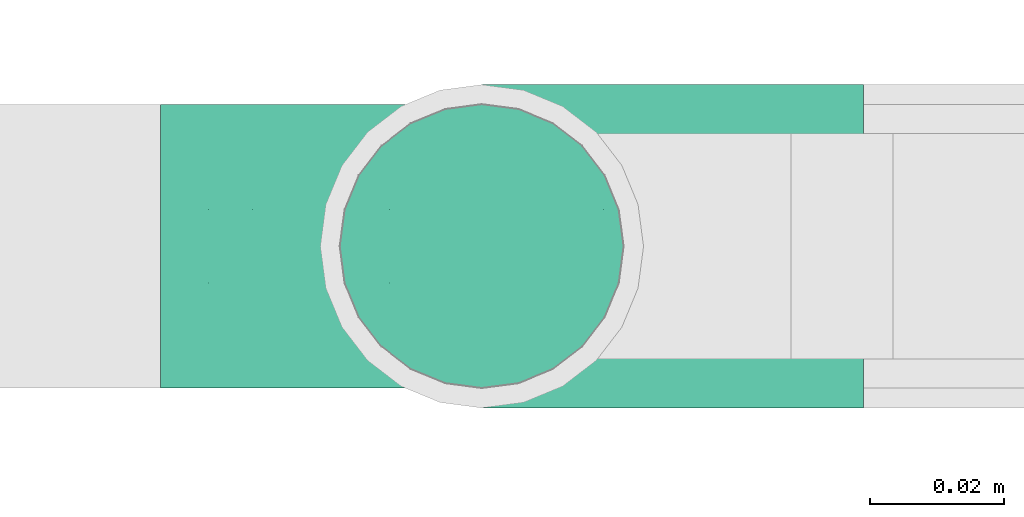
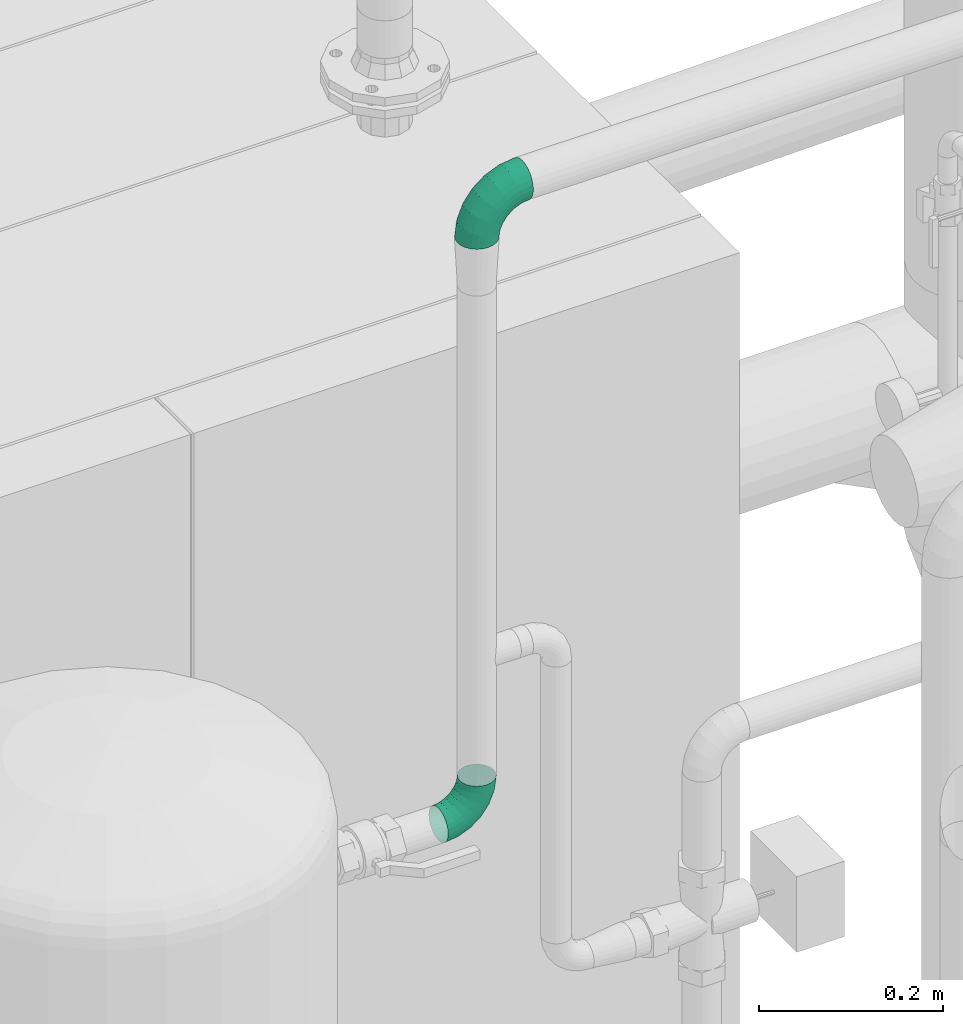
# One storey, part 281 of 374: 2 flow segments.
"""IFC2X3 building model written with IfcOpenShell, lengths in metres."""

from ifc_helpers import new_model, si_unit, direction, origin, place, context, subcontext, project, spatial, open_shell, surface_model, source, transform, mapped, element, save


model = new_model("IFC2X3")

# Units and contexts
model_context = context("Model", 3, precision=1e-05, world=origin(), true_north=direction((-0.4480736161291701, 0.8939966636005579)))
body_context = subcontext(model_context, "Body", "Model", "MODEL_VIEW")
ifc_project = project(units=[si_unit("LENGTHUNIT", "METRE"), si_unit("AREAUNIT", "SQUARE_METRE"), si_unit("VOLUMEUNIT", "CUBIC_METRE"), si_unit("PLANEANGLEUNIT", "RADIAN"), si_unit("THERMODYNAMICTEMPERATUREUNIT", "KELVIN"), si_unit("MASSUNIT", "GRAM", prefix="KILO"), si_unit("TIMEUNIT", "SECOND")], contexts=[model_context])

# Site, building, storey
site_placement = place(None, origin())
site = spatial("IfcSite", under=ifc_project, at=site_placement, Name="Site 1", CompositionType="ELEMENT")
building_placement = place(site_placement, origin())
building = spatial("IfcBuilding", under=site, at=building_placement, Name="Undefined", CompositionType="ELEMENT")
storey_placement = place(building_placement, origin())
storey = spatial("IfcBuildingStorey", under=building, at=storey_placement, Name="Rez de chauss\x8ee", CompositionType="ELEMENT", Elevation=0.0)

# Flow segments
shared_shape_1 = source(origin(), body_context, "Body", "SurfaceModel", [
    surface_model("IfcFaceBasedSurfaceModel", [(0.01806482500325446, 7.105427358e-15, 0.0), (0.017970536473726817, 0.005533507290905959, 0.0), (9.428852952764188e-05, 0.005533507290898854, 0.0), (0.0, 0.0, 0.0), (-0.017172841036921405, 0.00613233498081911, -0.004587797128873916), (-0.01744928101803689, 0.0006051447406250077, -0.004636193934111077), (-0.03265412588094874, 0.007289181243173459, -0.013450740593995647), (-0.0330938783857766, 0.0017741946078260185, -0.013592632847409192), (-0.045294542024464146, 0.008925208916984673, -0.02598483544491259), (-0.045867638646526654, 0.0034274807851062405, -0.02625895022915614), (-0.054232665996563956, 0.010928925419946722, -0.041335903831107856), (-0.05490005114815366, 0.005452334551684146, -0.04177195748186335), (-0.05885937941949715, 0.013163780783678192, -0.05845779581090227), (-0.059575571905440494, 0.007710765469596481, -0.05907446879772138), (0.01769409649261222, 0.010875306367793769, -0.0014203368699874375), (0.00037072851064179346, 0.010875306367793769, -0.0014203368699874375), (-0.016362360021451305, 0.011455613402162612, -0.005866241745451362), (-0.03136483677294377, 0.012576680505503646, -0.014455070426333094), (-0.04361430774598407, 0.014162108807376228, -0.026601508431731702), (-0.05227599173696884, 0.016103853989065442, -0.0414777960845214), (-0.05675960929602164, 0.018269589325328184, -0.05807013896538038), (0.017254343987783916, 0.015661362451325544, -0.0041642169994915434), (0.0008104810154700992, 0.015661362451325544, -0.004164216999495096), (-0.01507307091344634, 0.016212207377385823, -0.008384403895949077), (-0.029313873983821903, 0.01727635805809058, -0.016537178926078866), (-0.04094144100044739, 0.01878129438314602, -0.02806694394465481), (-0.049163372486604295, 0.02062445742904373, -0.042187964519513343), (-0.05341935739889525, 0.02268023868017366, -0.05793791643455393), (0.016681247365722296, 0.01956551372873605, -0.008044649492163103), (0.001383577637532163, 0.01956551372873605, -0.008044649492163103), (-0.01339283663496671, 0.020077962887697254, -0.011970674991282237), (-0.026641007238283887, 0.021067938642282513, -0.01955517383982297), (-0.03745809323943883, 0.02246797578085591, -0.03028127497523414), (-0.04510692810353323, 0.0241826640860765, -0.04341801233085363), (-0.04906625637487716, 0.026095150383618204, -0.05807013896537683), (0.016013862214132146, 0.022321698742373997, -0.012797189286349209), (0.0020509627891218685, 0.022321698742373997, -0.012797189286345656), (-0.011436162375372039, 0.02278943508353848, -0.016380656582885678), (-0.023528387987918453, 0.02369303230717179, -0.023303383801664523), (-0.03340164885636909, 0.024970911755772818, -0.03309359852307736), (-0.040383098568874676, 0.026535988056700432, -0.04508411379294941), (-0.04399696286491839, 0.028281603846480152, -0.05845779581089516), (0.015297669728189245, 0.023742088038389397, -0.018097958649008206), (0.00276715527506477, 0.023742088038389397, -0.018097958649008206), (-0.009336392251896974, 0.024161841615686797, -0.021313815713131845), (-0.02018813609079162, 0.02497274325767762, -0.0275263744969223), (-0.029048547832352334, 0.02611953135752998, -0.03631225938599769), (-0.03531380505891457, 0.027524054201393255, -0.04707272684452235), (-0.0385569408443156, 0.02909059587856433, -0.05907446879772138), (0.014581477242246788, 0.023729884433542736, -0.02358571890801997), (0.0034833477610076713, 0.023729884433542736, -0.02358571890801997), (-0.007236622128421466, 0.024101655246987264, -0.026433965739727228), (-0.016847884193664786, 0.02481986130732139, -0.03193635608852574), (-0.02469544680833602, 0.02583555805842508, -0.03971791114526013), (-0.0302445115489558, 0.027079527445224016, -0.04924833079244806), (-0.03311691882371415, 0.02846699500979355, -0.059878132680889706), (0.013914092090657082, 0.02228591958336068, -0.02888648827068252), (0.004150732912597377, 0.022285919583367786, -0.028886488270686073), (-0.005279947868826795, 0.022612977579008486, -0.031392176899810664), (-0.013735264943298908, 0.023244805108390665, -0.03623279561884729), (-0.020639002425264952, 0.02413834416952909, -0.04307846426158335), (-0.025520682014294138, 0.025232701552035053, -0.051462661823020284), (-0.028047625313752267, 0.026453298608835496, -0.060814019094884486), (0.013340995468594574, 0.01950859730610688, -0.03363902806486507), (0.0047238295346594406, 0.01950859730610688, -0.033639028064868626), (-0.0035997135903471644, 0.019797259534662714, -0.035850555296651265), (-0.011062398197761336, 0.0203549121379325, -0.04012289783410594), (-0.017155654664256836, 0.021143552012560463, -0.04616490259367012), (-0.02146423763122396, 0.022109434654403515, -0.05356481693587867), (-0.02369452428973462, 0.023186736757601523, -0.06181834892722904), (0.012901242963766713, 0.015587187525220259, -0.037519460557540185), (0.005163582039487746, 0.015587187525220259, -0.03751946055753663), (-0.0023104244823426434, 0.015846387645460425, -0.03950526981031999), (-0.009011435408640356, 0.016347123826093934, -0.043341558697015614), (-0.01448278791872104, 0.017055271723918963, -0.048766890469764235), (-0.018351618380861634, 0.017922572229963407, -0.05541153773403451), (-0.02035427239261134, 0.018889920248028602, -0.06282267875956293), (0.012624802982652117, 0.010788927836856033, -0.040263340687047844), (0.005440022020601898, 0.010788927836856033, -0.0402633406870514), (-0.0014999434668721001, 0.011029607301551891, -0.04210725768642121), (-0.007722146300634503, 0.01149456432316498, -0.045669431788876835), (-0.012802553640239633, 0.012152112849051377, -0.05070710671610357), (-0.0163949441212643, 0.012957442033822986, -0.056876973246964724), (-0.018254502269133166, 0.013855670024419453, -0.06375856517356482), (0.012530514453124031, 0.005440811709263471, -0.041683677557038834), (0.005534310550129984, 0.0054408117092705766, -0.041683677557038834), (-0.0012235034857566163, 0.005675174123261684, -0.04347919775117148), (-0.007282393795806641, 0.006127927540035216, -0.046947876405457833), (-0.012229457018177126, 0.0067682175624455, -0.05185332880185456), (-0.015727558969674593, 0.007552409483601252, -0.05786125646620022), (-0.01753830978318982, 0.008427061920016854, -0.0645622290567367), (0.012624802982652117, -9.269558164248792e-05, -0.04168367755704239), (0.005440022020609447, -9.269558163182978e-05, -0.04168367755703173), (-0.0014999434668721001, 0.00014798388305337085, -0.0435275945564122), (-0.007722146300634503, 0.0006129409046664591, -0.047089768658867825), (-0.012802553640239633, 0.001270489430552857, -0.05212744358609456), (-0.0163949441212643, 0.002075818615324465, -0.058297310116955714), (-0.018254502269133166, 0.0029740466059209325, -0.06517890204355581), (0.012901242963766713, -0.005434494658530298, -0.0402633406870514), (0.005163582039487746, -0.005434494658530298, -0.040263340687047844), (-0.0023104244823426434, -0.005175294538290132, -0.0422491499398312), (-0.009011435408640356, -0.004674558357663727, -0.046085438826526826), (-0.01448278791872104, -0.0039664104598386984, -0.051510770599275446), (-0.018351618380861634, -0.0030991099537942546, -0.05815541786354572), (-0.02035427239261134, -0.0021317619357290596, -0.06556655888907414), (0.013340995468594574, -0.010220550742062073, -0.03751946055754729), (0.0047238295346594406, -0.010220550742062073, -0.03751946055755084), (-0.0035997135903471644, -0.009931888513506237, -0.03973098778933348), (-0.011062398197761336, -0.009374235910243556, -0.04400333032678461), (-0.017155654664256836, -0.00858559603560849, -0.05004533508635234), (-0.02146423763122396, -0.007619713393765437, -0.057445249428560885), (-0.02369452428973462, -0.006542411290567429, -0.06569878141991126), (0.013914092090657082, -0.01412470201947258, -0.03363902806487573), (0.004150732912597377, -0.014124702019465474, -0.033639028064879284), (-0.005279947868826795, -0.013797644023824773, -0.036144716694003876), (-0.013735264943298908, -0.013165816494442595, -0.0409853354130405), (-0.020639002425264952, -0.012272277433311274, -0.04783100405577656), (-0.025520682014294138, -0.011177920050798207, -0.05621520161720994), (-0.028047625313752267, -0.009957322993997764, -0.0655665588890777), (0.014581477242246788, -0.01688088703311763, -0.028886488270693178), (0.0034833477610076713, -0.01688088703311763, -0.028886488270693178), (-0.007236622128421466, -0.016509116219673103, -0.031734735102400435), (-0.016847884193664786, -0.015790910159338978, -0.03723712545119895), (-0.02469544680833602, -0.014775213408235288, -0.04501868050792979), (-0.0302445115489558, -0.01353124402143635, -0.054549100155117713), (-0.03311691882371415, -0.012143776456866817, -0.06517890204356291), (0.015297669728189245, -0.01830127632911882, -0.02358571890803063), (0.00276715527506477, -0.01830127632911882, -0.02358571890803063), (-0.009336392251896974, -0.01788152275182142, -0.026801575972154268), (-0.02018813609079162, -0.017070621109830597, -0.033014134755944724), (-0.029048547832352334, -0.01592383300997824, -0.04180001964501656), (-0.03531380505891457, -0.014519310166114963, -0.05256048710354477), (-0.0385569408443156, -0.012952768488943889, -0.06456222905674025), (0.016013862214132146, -0.01828907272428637, -0.018097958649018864), (0.0020509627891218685, -0.01828907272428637, -0.018097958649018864), (-0.011436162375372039, -0.01782133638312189, -0.021681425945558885), (-0.023528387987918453, -0.016917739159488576, -0.02860415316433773), (-0.03340164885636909, -0.01563985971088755, -0.038394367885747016), (-0.040383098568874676, -0.014074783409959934, -0.05038488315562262), (-0.04399696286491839, -0.012329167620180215, -0.06375856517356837), (0.016681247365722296, -0.01684510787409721, -0.012797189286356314), (0.001383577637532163, -0.01684510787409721, -0.012797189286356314), (-0.01339283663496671, -0.016332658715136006, -0.01672321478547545), (-0.026641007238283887, -0.015342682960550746, -0.02430771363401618), (-0.03745809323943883, -0.01394264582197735, -0.03503381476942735), (-0.04510692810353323, -0.01222795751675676, -0.04817055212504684), (-0.04906625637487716, -0.010315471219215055, -0.06282267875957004), (0.017254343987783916, -0.014067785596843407, -0.008044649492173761), (0.0008104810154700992, -0.014067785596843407, -0.008044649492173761), (-0.01507307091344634, -0.013516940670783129, -0.012264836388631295), (-0.029313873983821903, -0.012452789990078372, -0.020417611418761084), (-0.04094144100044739, -0.010947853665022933, -0.03194737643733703), (-0.049163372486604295, -0.009104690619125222, -0.04606839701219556), (-0.05341935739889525, -0.007048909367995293, -0.06181834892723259), (0.01769409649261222, -0.010146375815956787, -0.004164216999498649), (0.00037072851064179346, -0.010146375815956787, -0.004164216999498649), (-0.016362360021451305, -0.009566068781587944, -0.008610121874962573), (-0.03136483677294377, -0.008445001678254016, -0.017198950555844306), (-0.04361430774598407, -0.006859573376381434, -0.029345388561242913), (-0.05227599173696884, -0.00491782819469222, -0.04422167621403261), (-0.05675960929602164, -0.002752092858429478, -0.060814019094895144), (0.017970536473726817, -0.0053481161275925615, -0.0014203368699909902), (9.428852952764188e-05, -0.005348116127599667, -0.001420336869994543), (-0.017172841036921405, -0.004749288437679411, -0.006008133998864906), (-0.03265412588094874, -0.0035924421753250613, -0.014871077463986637), (-0.045294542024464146, -0.001956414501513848, -0.02740517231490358), (-0.05423266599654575, 4.730200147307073e-05, -0.042756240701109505), (-0.05885937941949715, 0.002282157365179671, -0.05987813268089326)], [open_shell([[[0, 1, 2, 3]], [[3, 2, 4, 5]], [[5, 4, 6, 7]], [[7, 6, 8, 9]], [[9, 8, 10, 11]], [[11, 10, 12, 13]], [[1, 14, 15, 2]], [[2, 15, 16, 4]], [[4, 16, 17, 6]], [[6, 17, 18, 8]], [[8, 18, 19, 10]], [[10, 19, 20, 12]], [[14, 21, 22, 15]], [[15, 22, 23, 16]], [[16, 23, 24, 17]], [[17, 24, 25, 18]], [[18, 25, 26, 19]], [[19, 26, 27, 20]], [[21, 28, 29, 22]], [[22, 29, 30, 23]], [[23, 30, 31, 24]], [[24, 31, 32, 25]], [[25, 32, 33, 26]], [[26, 33, 34, 27]], [[28, 35, 36, 29]], [[29, 36, 37, 30]], [[30, 37, 38, 31]], [[31, 38, 39, 32]], [[32, 39, 40, 33]], [[33, 40, 41, 34]], [[35, 42, 43, 36]], [[36, 43, 44, 37]], [[37, 44, 45, 38]], [[38, 45, 46, 39]], [[39, 46, 47, 40]], [[40, 47, 48, 41]], [[42, 49, 50, 43]], [[43, 50, 51, 44]], [[44, 51, 52, 45]], [[45, 52, 53, 46]], [[46, 53, 54, 47]], [[47, 54, 55, 48]], [[49, 56, 57, 50]], [[50, 57, 58, 51]], [[51, 58, 59, 52]], [[52, 59, 60, 53]], [[53, 60, 61, 54]], [[54, 61, 62, 55]], [[56, 63, 64, 57]], [[57, 64, 65, 58]], [[58, 65, 66, 59]], [[59, 66, 67, 60]], [[60, 67, 68, 61]], [[61, 68, 69, 62]], [[63, 70, 71, 64]], [[64, 71, 72, 65]], [[65, 72, 73, 66]], [[66, 73, 74, 67]], [[67, 74, 75, 68]], [[68, 75, 76, 69]], [[70, 77, 78, 71]], [[71, 78, 79, 72]], [[72, 79, 80, 73]], [[73, 80, 81, 74]], [[74, 81, 82, 75]], [[75, 82, 83, 76]], [[77, 84, 85, 78]], [[78, 85, 86, 79]], [[79, 86, 87, 80]], [[80, 87, 88, 81]], [[81, 88, 89, 82]], [[82, 89, 90, 83]], [[84, 91, 92, 85]], [[85, 92, 93, 86]], [[86, 93, 94, 87]], [[87, 94, 95, 88]], [[88, 95, 96, 89]], [[89, 96, 97, 90]], [[91, 98, 99, 92]], [[92, 99, 100, 93]], [[93, 100, 101, 94]], [[94, 101, 102, 95]], [[95, 102, 103, 96]], [[96, 103, 104, 97]], [[98, 105, 106, 99]], [[99, 106, 107, 100]], [[100, 107, 108, 101]], [[101, 108, 109, 102]], [[102, 109, 110, 103]], [[103, 110, 111, 104]], [[105, 112, 113, 106]], [[106, 113, 114, 107]], [[107, 114, 115, 108]], [[108, 115, 116, 109]], [[109, 116, 117, 110]], [[110, 117, 118, 111]], [[112, 119, 120, 113]], [[113, 120, 121, 114]], [[114, 121, 122, 115]], [[115, 122, 123, 116]], [[116, 123, 124, 117]], [[117, 124, 125, 118]], [[119, 126, 127, 120]], [[120, 127, 128, 121]], [[121, 128, 129, 122]], [[122, 129, 130, 123]], [[123, 130, 131, 124]], [[124, 131, 132, 125]], [[126, 133, 134, 127]], [[127, 134, 135, 128]], [[128, 135, 136, 129]], [[129, 136, 137, 130]], [[130, 137, 138, 131]], [[131, 138, 139, 132]], [[133, 140, 141, 134]], [[134, 141, 142, 135]], [[135, 142, 143, 136]], [[136, 143, 144, 137]], [[137, 144, 145, 138]], [[138, 145, 146, 139]], [[140, 147, 148, 141]], [[141, 148, 149, 142]], [[142, 149, 150, 143]], [[143, 150, 151, 144]], [[144, 151, 152, 145]], [[145, 152, 153, 146]], [[147, 154, 155, 148]], [[148, 155, 156, 149]], [[149, 156, 157, 150]], [[150, 157, 158, 151]], [[151, 158, 159, 152]], [[152, 159, 160, 153]], [[154, 161, 162, 155]], [[155, 162, 163, 156]], [[156, 163, 164, 157]], [[157, 164, 165, 158]], [[158, 165, 166, 159]], [[159, 166, 167, 160]], [[161, 0, 3, 162]], [[162, 3, 5, 163]], [[163, 5, 7, 164]], [[164, 7, 9, 165]], [[165, 9, 11, 166]], [[166, 11, 13, 167]]])]),
])
flow_segment_1_placement = place(storey_placement, origin())
element("IfcFlowSegment", 1, at=flow_segment_1_placement, inside=storey, Name="Tube coudé", ObjectType="Tube coudé", context=body_context, shape_type="MappedRepresentation", body=[
    mapped(shared_shape_1, transform((54.11770678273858, 11.708084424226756, 1.4000897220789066), x_axis=(0.1305261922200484, 0.0, 0.9914448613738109), y_axis=(-0.1283210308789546, -0.9915887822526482, 0.01689378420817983), z_axis=(0.9831056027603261, -0.12942830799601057, -0.12942830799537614))),
])
shared_shape_2 = source(origin(), body_context, "Body", "SurfaceModel", [
    surface_model("IfcFaceBasedSurfaceModel", [(0.021184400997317, 0.0, 0.0), (0.021076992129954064, 0.006303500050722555, 0.0), (0.00010740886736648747, 0.0063035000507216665, 0.0), (0.0, 0.0, 0.0), (-0.020147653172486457, 0.007005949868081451, -0.005381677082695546), (-0.02046256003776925, 0.0007096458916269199, -0.005436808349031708), (-0.03830784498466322, 0.008362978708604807, -0.015778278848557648), (-0.03880878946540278, 0.00208057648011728, -0.015939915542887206), (-0.05313557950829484, 0.010282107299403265, -0.030481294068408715), (-0.05378842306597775, 0.004019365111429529, -0.030793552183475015), (-0.06362037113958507, 0.01263255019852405, -0.048488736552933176), (-0.0643806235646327, 0.0063938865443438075, -0.048985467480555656), (-0.06904769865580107, 0.015254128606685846, -0.0685734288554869), (-0.06986355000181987, 0.00904232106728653, -0.06927591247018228), (0.020762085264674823, 0.012388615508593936, -0.0016179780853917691), (0.00042231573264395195, 0.012388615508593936, -0.0016179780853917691), (-0.019224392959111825, 0.013069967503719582, -0.006838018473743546), (-0.03683915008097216, 0.014386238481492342, -0.016922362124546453), (-0.0512215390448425, 0.016247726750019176, -0.031183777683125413), (-0.06139142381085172, 0.01852757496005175, -0.048650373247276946), (-0.06665574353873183, 0.021070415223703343, -0.06813182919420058), (0.02026114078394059, 0.017840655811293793, -0.004743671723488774), (0.0009232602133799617, 0.01784065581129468, -0.004743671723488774), (-0.017755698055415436, 0.018488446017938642, -0.009706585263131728), (-0.03450279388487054, 0.019739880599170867, -0.019294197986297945), (-0.04817674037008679, 0.0215096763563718, -0.03285312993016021), (-0.057845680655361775, 0.02367722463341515, -0.04945936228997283), (-0.06285069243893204, 0.02609481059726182, -0.06798120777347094), (0.01960829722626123, 0.022288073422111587, -0.009164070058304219), (0.0015761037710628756, 0.0222880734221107, -0.009164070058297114), (-0.01584165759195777, 0.022892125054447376, -0.013791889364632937), (-0.031457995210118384, 0.024059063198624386, -0.02273214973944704), (-0.04420868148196, 0.02570936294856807, -0.035375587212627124), (-0.05322477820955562, 0.02773055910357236, -0.05086057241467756), (-0.057891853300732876, 0.029984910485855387, -0.06813182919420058), (0.01884804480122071, 0.025427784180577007, -0.014577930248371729), (0.002336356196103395, 0.02542778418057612, -0.014577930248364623), (-0.013612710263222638, 0.025980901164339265, -0.01881552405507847), (-0.027912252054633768, 0.027049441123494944, -0.027001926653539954), (-0.03958777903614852, 0.0285605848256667, -0.03857924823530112), (-0.047843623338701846, 0.03041135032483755, -0.052758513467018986), (-0.05211716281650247, 0.03247561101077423, -0.0685734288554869), (0.018032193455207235, 0.027045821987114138, -0.020616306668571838), (0.0031522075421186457, 0.027045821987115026, -0.020616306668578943), (-0.011220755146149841, 0.02754427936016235, -0.02443513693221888), (-0.024107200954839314, 0.028507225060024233, -0.03181255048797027), (-0.034628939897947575, 0.029869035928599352, -0.04224578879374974), (-0.04206893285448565, 0.031536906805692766, -0.055023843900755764), (-0.045920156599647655, 0.03339717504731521, -0.06927591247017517), (0.017216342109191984, 0.02703192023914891, -0.02686769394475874), (0.003968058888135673, 0.02703192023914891, -0.02686769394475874), (-0.008828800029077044, 0.02747571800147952, -0.030267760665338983), (-0.020302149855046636, 0.02833306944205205, -0.03683618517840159), (-0.02967010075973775, 0.029545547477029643, -0.04612534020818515), (-0.03629424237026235, 0.031030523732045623, -0.05750218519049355), (-0.0397231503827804, 0.032686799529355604, -0.07019140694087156), (0.016456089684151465, 0.02538702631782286, -0.03290607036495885), (0.004728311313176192, 0.025387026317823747, -0.03290607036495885), (-0.006599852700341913, 0.02577988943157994, -0.03591591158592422), (-0.016756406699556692, 0.02653884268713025, -0.04173047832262), (-0.02504919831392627, 0.027612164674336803, -0.04995351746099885), (-0.030913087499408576, 0.02892671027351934, -0.060024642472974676), (-0.033948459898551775, 0.030392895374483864, -0.07125752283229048), (0.01580324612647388, 0.022223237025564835, -0.038319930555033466), (0.005381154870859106, 0.022223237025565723, -0.03831993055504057), (-0.004685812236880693, 0.02257236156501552, -0.0409946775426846), (-0.013711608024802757, 0.023246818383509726, -0.04616189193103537), (-0.02108113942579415, 0.024200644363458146, -0.053469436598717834), (-0.026292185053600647, 0.02536883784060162, -0.06241931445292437), (-0.028989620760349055, 0.026671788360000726, -0.07240160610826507), (0.015302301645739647, 0.017756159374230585, -0.04274032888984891), (0.005882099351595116, 0.017756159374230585, -0.04274032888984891), (-0.0032171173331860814, 0.018071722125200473, -0.04515794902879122), (-0.011375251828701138, 0.01868134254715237, -0.0498284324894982), (-0.01803634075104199, 0.019543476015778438, -0.056433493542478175), (-0.022746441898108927, 0.0205993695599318, -0.0645230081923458), (-0.025184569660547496, 0.021777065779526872, -0.07354568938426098), (0.014987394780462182, 0.012290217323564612, -0.045866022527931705), (0.006197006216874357, 0.012290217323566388, -0.045866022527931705), (-0.002293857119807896, 0.012584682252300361, -0.048122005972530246), (-0.009906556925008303, 0.013153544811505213, -0.05248023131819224), (-0.016122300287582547, 0.013958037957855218, -0.05864369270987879), (-0.020517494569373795, 0.014943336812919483, -0.0661923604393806), (-0.02279261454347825, 0.016042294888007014, -0.0746118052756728), (0.014879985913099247, 0.0061979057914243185, -0.047484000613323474), (0.006304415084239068, 0.006197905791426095, -0.047484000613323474), (-0.0019789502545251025, 0.0064851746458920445, -0.049684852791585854), (-0.009405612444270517, 0.007040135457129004, -0.053936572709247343), (-0.015469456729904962, 0.007824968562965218, -0.05994941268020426), (-0.0197572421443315, 0.008786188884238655, -0.06731360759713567), (-0.021976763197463, 0.009858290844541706, -0.07552729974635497), (0.014987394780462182, -0.0001055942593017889, -0.047484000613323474), (0.006197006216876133, -0.00010559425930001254, -0.047484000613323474), (-0.0022938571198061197, 0.00018887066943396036, -0.049739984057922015), (-0.009906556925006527, 0.0007577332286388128, -0.05409820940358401), (-0.01612230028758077, 0.0015622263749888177, -0.06026167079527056), (-0.02051749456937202, 0.0025475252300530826, -0.06781033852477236), (-0.02279261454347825, 0.003646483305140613, -0.07622978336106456), (0.015302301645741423, -0.006190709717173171, -0.04586602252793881), (0.005882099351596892, -0.006190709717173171, -0.04586602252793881), (-0.003217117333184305, -0.005875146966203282, -0.04828364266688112), (-0.011375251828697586, -0.0052655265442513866, -0.0529541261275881), (-0.018036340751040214, -0.004403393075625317, -0.059559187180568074), (-0.022746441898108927, -0.0033474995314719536, -0.0676487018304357), (-0.025184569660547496, -0.0021698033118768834, -0.07667138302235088), (0.015803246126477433, -0.01164275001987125, -0.042740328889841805), (0.0053811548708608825, -0.011642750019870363, -0.04274032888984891), (-0.0046858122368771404, -0.011293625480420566, -0.04541507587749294), (-0.01371160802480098, -0.01061916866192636, -0.05058229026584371), (-0.021081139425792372, -0.00966534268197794, -0.057889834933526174), (-0.02629218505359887, -0.008497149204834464, -0.06683971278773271), (-0.028989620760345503, -0.00719419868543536, -0.07682200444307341), (0.016456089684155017, -0.016090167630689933, -0.03831993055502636), (0.004728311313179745, -0.016090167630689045, -0.03831993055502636), (-0.00659985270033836, -0.015697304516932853, -0.04132977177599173), (-0.01675640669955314, -0.014938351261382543, -0.047144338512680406), (-0.025049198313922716, -0.013865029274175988, -0.05536737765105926), (-0.030913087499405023, -0.012550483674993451, -0.06543850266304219), (-0.03394845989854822, -0.011084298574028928, -0.07667138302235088), (0.017216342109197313, -0.0192298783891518, -0.032906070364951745), (0.003968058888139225, -0.0192298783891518, -0.032906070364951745), (-0.008828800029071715, -0.01878608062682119, -0.036306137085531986), (-0.020302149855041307, -0.01792872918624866, -0.042874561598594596), (-0.02967010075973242, -0.016716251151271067, -0.052163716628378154), (-0.0362942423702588, -0.015231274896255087, -0.06354056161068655), (-0.039723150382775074, -0.013574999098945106, -0.07622978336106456), (0.018032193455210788, -0.020847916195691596, -0.026867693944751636), (0.003152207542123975, -0.020847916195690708, -0.02686769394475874), (-0.011220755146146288, -0.020349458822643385, -0.03068652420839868), (-0.02410720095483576, -0.0193865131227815, -0.03806393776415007), (-0.034628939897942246, -0.01802470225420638, -0.04849717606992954), (-0.0420689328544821, -0.016356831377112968, -0.06127523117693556), (-0.045920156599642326, -0.014496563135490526, -0.07552729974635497), (0.018848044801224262, -0.020834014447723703, -0.020616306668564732), (0.0023363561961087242, -0.02083401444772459, -0.020616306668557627), (-0.01361271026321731, -0.020280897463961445, -0.024853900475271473), (-0.02791225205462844, -0.019212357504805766, -0.03304030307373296), (-0.039587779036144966, -0.017701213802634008, -0.044617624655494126), (-0.04784362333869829, -0.01585044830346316, -0.05879688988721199), (-0.05211716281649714, -0.01378618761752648, -0.0746118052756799), (0.01960829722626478, -0.019189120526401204, -0.014577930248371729), (0.0015761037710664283, -0.019189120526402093, -0.014577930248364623), (-0.015841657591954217, -0.018585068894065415, -0.01920574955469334), (-0.03145799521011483, -0.017418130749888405, -0.028146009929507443), (-0.04420868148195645, -0.01576783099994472, -0.04078944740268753), (-0.05322477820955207, -0.01374663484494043, -0.05627443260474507), (-0.05789185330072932, -0.011492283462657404, -0.07354568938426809), (0.020261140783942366, -0.016025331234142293, -0.009164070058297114), (0.0009232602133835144, -0.016025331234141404, -0.009164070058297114), (-0.017755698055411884, -0.015377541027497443, -0.014126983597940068), (-0.03450279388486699, -0.014126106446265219, -0.023714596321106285), (-0.04817674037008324, -0.012356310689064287, -0.03727352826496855), (-0.05784568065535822, -0.010188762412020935, -0.05387976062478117), (-0.06285069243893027, -0.007771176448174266, -0.07240160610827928), (0.0207620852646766, -0.011558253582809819, -0.004743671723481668), (0.0004223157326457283, -0.011558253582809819, -0.004743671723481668), (-0.019224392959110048, -0.010876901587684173, -0.009963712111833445), (-0.036839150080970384, -0.009560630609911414, -0.020048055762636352), (-0.051221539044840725, -0.007699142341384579, -0.03430947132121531), (-0.06139142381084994, -0.005419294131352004, -0.051776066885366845), (-0.06665574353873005, -0.0028764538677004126, -0.07125752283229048), (0.02107699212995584, -0.006092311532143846, -0.0016179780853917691), (0.00010740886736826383, -0.006092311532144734, -0.0016179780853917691), (-0.020147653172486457, -0.005389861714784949, -0.006999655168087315), (-0.03830784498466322, -0.004032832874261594, -0.017396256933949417), (-0.05313557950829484, -0.002113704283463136, -0.032099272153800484), (-0.0636203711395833, 0.0002367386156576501, -0.050106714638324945), (-0.06904769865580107, 0.0028583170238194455, -0.07019140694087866)], [open_shell([[[0, 1, 2, 3]], [[3, 2, 4, 5]], [[5, 4, 6, 7]], [[7, 6, 8, 9]], [[9, 8, 10, 11]], [[11, 10, 12, 13]], [[1, 14, 15, 2]], [[2, 15, 16, 4]], [[4, 16, 17, 6]], [[6, 17, 18, 8]], [[8, 18, 19, 10]], [[10, 19, 20, 12]], [[14, 21, 22, 15]], [[15, 22, 23, 16]], [[16, 23, 24, 17]], [[17, 24, 25, 18]], [[18, 25, 26, 19]], [[19, 26, 27, 20]], [[21, 28, 29, 22]], [[22, 29, 30, 23]], [[23, 30, 31, 24]], [[24, 31, 32, 25]], [[25, 32, 33, 26]], [[26, 33, 34, 27]], [[28, 35, 36, 29]], [[29, 36, 37, 30]], [[30, 37, 38, 31]], [[31, 38, 39, 32]], [[32, 39, 40, 33]], [[33, 40, 41, 34]], [[35, 42, 43, 36]], [[36, 43, 44, 37]], [[37, 44, 45, 38]], [[38, 45, 46, 39]], [[39, 46, 47, 40]], [[40, 47, 48, 41]], [[42, 49, 50, 43]], [[43, 50, 51, 44]], [[44, 51, 52, 45]], [[45, 52, 53, 46]], [[46, 53, 54, 47]], [[47, 54, 55, 48]], [[49, 56, 57, 50]], [[50, 57, 58, 51]], [[51, 58, 59, 52]], [[52, 59, 60, 53]], [[53, 60, 61, 54]], [[54, 61, 62, 55]], [[56, 63, 64, 57]], [[57, 64, 65, 58]], [[58, 65, 66, 59]], [[59, 66, 67, 60]], [[60, 67, 68, 61]], [[61, 68, 69, 62]], [[63, 70, 71, 64]], [[64, 71, 72, 65]], [[65, 72, 73, 66]], [[66, 73, 74, 67]], [[67, 74, 75, 68]], [[68, 75, 76, 69]], [[70, 77, 78, 71]], [[71, 78, 79, 72]], [[72, 79, 80, 73]], [[73, 80, 81, 74]], [[74, 81, 82, 75]], [[75, 82, 83, 76]], [[77, 84, 85, 78]], [[78, 85, 86, 79]], [[79, 86, 87, 80]], [[80, 87, 88, 81]], [[81, 88, 89, 82]], [[82, 89, 90, 83]], [[84, 91, 92, 85]], [[85, 92, 93, 86]], [[86, 93, 94, 87]], [[87, 94, 95, 88]], [[88, 95, 96, 89]], [[89, 96, 97, 90]], [[91, 98, 99, 92]], [[92, 99, 100, 93]], [[93, 100, 101, 94]], [[94, 101, 102, 95]], [[95, 102, 103, 96]], [[96, 103, 104, 97]], [[98, 105, 106, 99]], [[99, 106, 107, 100]], [[100, 107, 108, 101]], [[101, 108, 109, 102]], [[102, 109, 110, 103]], [[103, 110, 111, 104]], [[105, 112, 113, 106]], [[106, 113, 114, 107]], [[107, 114, 115, 108]], [[108, 115, 116, 109]], [[109, 116, 117, 110]], [[110, 117, 118, 111]], [[112, 119, 120, 113]], [[113, 120, 121, 114]], [[114, 121, 122, 115]], [[115, 122, 123, 116]], [[116, 123, 124, 117]], [[117, 124, 125, 118]], [[119, 126, 127, 120]], [[120, 127, 128, 121]], [[121, 128, 129, 122]], [[122, 129, 130, 123]], [[123, 130, 131, 124]], [[124, 131, 132, 125]], [[126, 133, 134, 127]], [[127, 134, 135, 128]], [[128, 135, 136, 129]], [[129, 136, 137, 130]], [[130, 137, 138, 131]], [[131, 138, 139, 132]], [[133, 140, 141, 134]], [[134, 141, 142, 135]], [[135, 142, 143, 136]], [[136, 143, 144, 137]], [[137, 144, 145, 138]], [[138, 145, 146, 139]], [[140, 147, 148, 141]], [[141, 148, 149, 142]], [[142, 149, 150, 143]], [[143, 150, 151, 144]], [[144, 151, 152, 145]], [[145, 152, 153, 146]], [[147, 154, 155, 148]], [[148, 155, 156, 149]], [[149, 156, 157, 150]], [[150, 157, 158, 151]], [[151, 158, 159, 152]], [[152, 159, 160, 153]], [[154, 161, 162, 155]], [[155, 162, 163, 156]], [[156, 163, 164, 157]], [[157, 164, 165, 158]], [[158, 165, 166, 159]], [[159, 166, 167, 160]], [[161, 0, 3, 162]], [[162, 3, 5, 163]], [[163, 5, 7, 164]], [[164, 7, 9, 165]], [[165, 9, 11, 166]], [[166, 11, 13, 167]]])]),
])
flow_segment_2_placement = place(storey_placement, origin())
element("IfcFlowSegment", 2, at=flow_segment_2_placement, inside=storey, Name="Tube coudé", ObjectType="Tube coudé", context=body_context, shape_type="MappedRepresentation", body=[
    mapped(shared_shape_2, transform((54.077479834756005, 11.708084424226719, 2.1520031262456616), x_axis=(-0.13052619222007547, 0.0, -0.9914448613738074), y_axis=(0.12832103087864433, -0.9915887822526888, -0.016893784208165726), z_axis=(-0.9831056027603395, -0.12942830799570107, 0.1294283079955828))),
])

save(model, "model.ifc")
